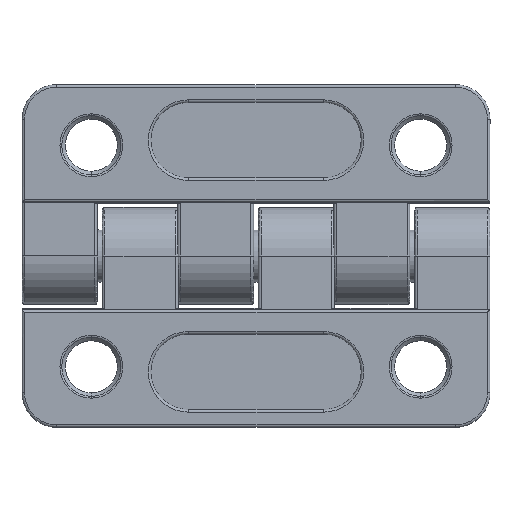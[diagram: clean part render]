
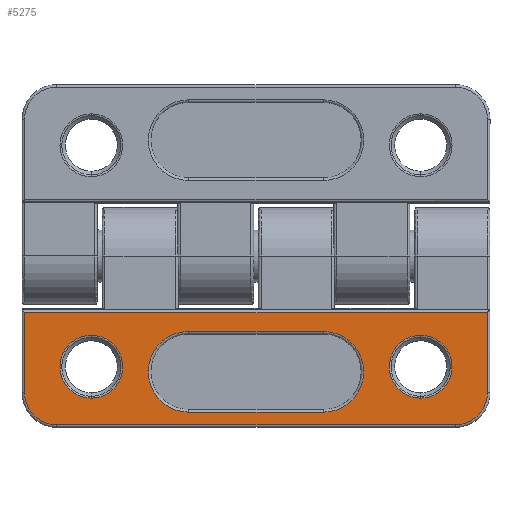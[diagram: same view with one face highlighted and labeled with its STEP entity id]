
A CAD part, front view. The second image highlights one B-rep face of the part: STEP entity #5275.
In plain terms, the highlighted planar face has unit normal (0, -1, 0).
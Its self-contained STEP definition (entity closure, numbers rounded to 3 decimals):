
#8 = CIRCLE ( 'NONE', #525, 3.624 ) ;
#62 = ORIENTED_EDGE ( 'NONE', *, *, #1343, .T. ) ;
#78 = ORIENTED_EDGE ( 'NONE', *, *, #3795, .T. ) ;
#79 = VERTEX_POINT ( 'NONE', #459 ) ;
#204 = AXIS2_PLACEMENT_3D ( 'NONE', #5255, #4309, #1883 ) ;
#276 = VERTEX_POINT ( 'NONE', #2229 ) ;
#288 = DIRECTION ( 'NONE',  ( 1., 0., 0. ) ) ;
#331 = VERTEX_POINT ( 'NONE', #6209 ) ;
#405 = ORIENTED_EDGE ( 'NONE', *, *, #2270, .T. ) ;
#459 = CARTESIAN_POINT ( 'NONE',  ( 7.783, -6.28, -18.016 ) ) ;
#525 = AXIS2_PLACEMENT_3D ( 'NONE', #3834, #1791, #5789 ) ;
#539 = VERTEX_POINT ( 'NONE', #4807 ) ;
#562 = EDGE_CURVE ( 'NONE', #5104, #3894, #2514, .T. ) ;
#806 = DIRECTION ( 'NONE',  ( 0., 0., 1. ) ) ;
#813 = FACE_BOUND ( 'NONE', #5240, .T. ) ;
#838 = DIRECTION ( 'NONE',  ( 0., -1., 0. ) ) ;
#842 = CARTESIAN_POINT ( 'NONE',  ( -7.783, -6.28, -18.016 ) ) ;
#907 = CARTESIAN_POINT ( 'NONE',  ( 26.7, -6.28, -6.524 ) ) ;
#930 = VERTEX_POINT ( 'NONE', #1737 ) ;
#948 = DIRECTION ( 'NONE',  ( 0., 1., 0. ) ) ;
#951 = EDGE_CURVE ( 'NONE', #930, #539, #2737, .T. ) ;
#975 = DIRECTION ( 'NONE',  ( 0., 0., -1. ) ) ;
#1120 = CARTESIAN_POINT ( 'NONE',  ( 26.7, -6.28, -15.78 ) ) ;
#1170 = CARTESIAN_POINT ( 'NONE',  ( -26.7, -6.28, -15.78 ) ) ;
#1281 = ORIENTED_EDGE ( 'NONE', *, *, #4371, .T. ) ;
#1304 = EDGE_CURVE ( 'NONE', #331, #5312, #5695, .T. ) ;
#1325 = CARTESIAN_POINT ( 'NONE',  ( -23., -6.28, -15.78 ) ) ;
#1343 = EDGE_CURVE ( 'NONE', #3398, #331, #4156, .T. ) ;
#1421 = CARTESIAN_POINT ( 'NONE',  ( 27., -6.28, -19.48 ) ) ;
#1492 = ORIENTED_EDGE ( 'NONE', *, *, #2599, .T. ) ;
#1508 = EDGE_CURVE ( 'NONE', #539, #79, #5318, .T. ) ;
#1523 = AXIS2_PLACEMENT_3D ( 'NONE', #6171, #1763, #4503 ) ;
#1526 = ORIENTED_EDGE ( 'NONE', *, *, #6117, .T. ) ;
#1632 = CIRCLE ( 'NONE', #204, 3.624 ) ;
#1684 = VERTEX_POINT ( 'NONE', #3757 ) ;
#1710 = ORIENTED_EDGE ( 'NONE', *, *, #951, .T. ) ;
#1737 = CARTESIAN_POINT ( 'NONE',  ( -7.783, -6.28, -8.716 ) ) ;
#1763 = DIRECTION ( 'NONE',  ( 0., 1., 0. ) ) ;
#1791 = DIRECTION ( 'NONE',  ( 0., 1., 0. ) ) ;
#1883 = DIRECTION ( 'NONE',  ( 0., 0., -1. ) ) ;
#1971 = CARTESIAN_POINT ( 'NONE',  ( 19., -6.28, -16.404 ) ) ;
#2041 = CIRCLE ( 'NONE', #5859, 4.65 ) ;
#2127 = VECTOR ( 'NONE', #2973, 1000. ) ;
#2139 = VERTEX_POINT ( 'NONE', #5865 ) ;
#2216 = VECTOR ( 'NONE', #288, 1000. ) ;
#2229 = CARTESIAN_POINT ( 'NONE',  ( -19., -6.28, -9.156 ) ) ;
#2270 = EDGE_CURVE ( 'NONE', #79, #5281, #2481, .T. ) ;
#2300 = CARTESIAN_POINT ( 'NONE',  ( 27., -6.28, -19.78 ) ) ;
#2321 = LINE ( 'NONE', #4236, #5549 ) ;
#2430 = EDGE_LOOP ( 'NONE', ( #3941, #405, #4979, #1710 ) ) ;
#2481 = LINE ( 'NONE', #5416, #2127 ) ;
#2499 = ORIENTED_EDGE ( 'NONE', *, *, #4756, .T. ) ;
#2514 = CIRCLE ( 'NONE', #5811, 3.7 ) ;
#2555 = CARTESIAN_POINT ( 'NONE',  ( -26.7, -6.28, -15.78 ) ) ;
#2599 = EDGE_CURVE ( 'NONE', #4373, #1684, #8, .T. ) ;
#2602 = DIRECTION ( 'NONE',  ( 0., -1., 0. ) ) ;
#2682 = CARTESIAN_POINT ( 'NONE',  ( -23., -6.28, -19.48 ) ) ;
#2737 = LINE ( 'NONE', #4704, #2216 ) ;
#2846 = DIRECTION ( 'NONE',  ( 0., 0., -1. ) ) ;
#2851 = AXIS2_PLACEMENT_3D ( 'NONE', #2300, #5812, #3797 ) ;
#2881 = DIRECTION ( 'NONE',  ( 0., 1., 0. ) ) ;
#2944 = EDGE_CURVE ( 'NONE', #1684, #4373, #4306, .T. ) ;
#2973 = DIRECTION ( 'NONE',  ( -1., 0., 0. ) ) ;
#3079 = DIRECTION ( 'NONE',  ( 0., 1., 0. ) ) ;
#3121 = EDGE_CURVE ( 'NONE', #5281, #930, #2041, .T. ) ;
#3398 = VERTEX_POINT ( 'NONE', #907 ) ;
#3410 = CARTESIAN_POINT ( 'NONE',  ( -19., -6.28, -12.78 ) ) ;
#3471 = VECTOR ( 'NONE', #6136, 1000. ) ;
#3588 = CARTESIAN_POINT ( 'NONE',  ( 23., -6.28, -15.78 ) ) ;
#3709 = DIRECTION ( 'NONE',  ( 0., 0., -1. ) ) ;
#3757 = CARTESIAN_POINT ( 'NONE',  ( 19., -6.28, -9.156 ) ) ;
#3795 = EDGE_CURVE ( 'NONE', #5312, #3953, #4639, .T. ) ;
#3797 = DIRECTION ( 'NONE',  ( 0., 0., -1. ) ) ;
#3834 = CARTESIAN_POINT ( 'NONE',  ( 19., -6.28, -12.78 ) ) ;
#3856 = FACE_BOUND ( 'NONE', #2430, .T. ) ;
#3894 = VERTEX_POINT ( 'NONE', #1120 ) ;
#3941 = ORIENTED_EDGE ( 'NONE', *, *, #1508, .T. ) ;
#3953 = VERTEX_POINT ( 'NONE', #2682 ) ;
#4156 = LINE ( 'NONE', #5636, #3471 ) ;
#4236 = CARTESIAN_POINT ( 'NONE',  ( 26.7, -6.28, -19.78 ) ) ;
#4306 = CIRCLE ( 'NONE', #1523, 3.624 ) ;
#4309 = DIRECTION ( 'NONE',  ( 0., 1., 0. ) ) ;
#4371 = EDGE_CURVE ( 'NONE', #3953, #5104, #6170, .T. ) ;
#4373 = VERTEX_POINT ( 'NONE', #1971 ) ;
#4381 = ORIENTED_EDGE ( 'NONE', *, *, #2944, .T. ) ;
#4478 = EDGE_CURVE ( 'NONE', #3894, #3398, #2321, .T. ) ;
#4503 = DIRECTION ( 'NONE',  ( 0., 0., -1. ) ) ;
#4513 = CIRCLE ( 'NONE', #5950, 3.624 ) ;
#4564 = CARTESIAN_POINT ( 'NONE',  ( 23., -6.28, -19.48 ) ) ;
#4638 = DIRECTION ( 'NONE',  ( 0., 0., -1. ) ) ;
#4639 = CIRCLE ( 'NONE', #5260, 3.7 ) ;
#4704 = CARTESIAN_POINT ( 'NONE',  ( 7.783, -6.28, -8.716 ) ) ;
#4756 = EDGE_CURVE ( 'NONE', #276, #2139, #1632, .T. ) ;
#4766 = ORIENTED_EDGE ( 'NONE', *, *, #562, .T. ) ;
#4807 = CARTESIAN_POINT ( 'NONE',  ( 7.783, -6.28, -8.716 ) ) ;
#4950 = ORIENTED_EDGE ( 'NONE', *, *, #4478, .T. ) ;
#4957 = DIRECTION ( 'NONE',  ( 0., 0., -1. ) ) ;
#4979 = ORIENTED_EDGE ( 'NONE', *, *, #3121, .T. ) ;
#4998 = VECTOR ( 'NONE', #4638, 1000. ) ;
#5104 = VERTEX_POINT ( 'NONE', #4564 ) ;
#5240 = EDGE_LOOP ( 'NONE', ( #1526, #2499 ) ) ;
#5244 = FACE_OUTER_BOUND ( 'NONE', #6011, .T. ) ;
#5255 = CARTESIAN_POINT ( 'NONE',  ( -19., -6.28, -12.78 ) ) ;
#5260 = AXIS2_PLACEMENT_3D ( 'NONE', #1325, #838, #2846 ) ;
#5275 = ADVANCED_FACE ( 'NONE', ( #5244, #6289, #813, #3856 ), #6256, .T. ) ;
#5281 = VERTEX_POINT ( 'NONE', #842 ) ;
#5312 = VERTEX_POINT ( 'NONE', #2555 ) ;
#5318 = CIRCLE ( 'NONE', #6127, 4.65 ) ;
#5399 = DIRECTION ( 'NONE',  ( 1., 0., 0. ) ) ;
#5407 = CARTESIAN_POINT ( 'NONE',  ( 7.783, -6.28, -13.366 ) ) ;
#5416 = CARTESIAN_POINT ( 'NONE',  ( -7.783, -6.28, -18.016 ) ) ;
#5549 = VECTOR ( 'NONE', #806, 1000. ) ;
#5636 = CARTESIAN_POINT ( 'NONE',  ( 27., -6.28, -6.524 ) ) ;
#5695 = LINE ( 'NONE', #1170, #4998 ) ;
#5789 = DIRECTION ( 'NONE',  ( 0., 0., -1. ) ) ;
#5811 = AXIS2_PLACEMENT_3D ( 'NONE', #3588, #2602, #3709 ) ;
#5812 = DIRECTION ( 'NONE',  ( 0., -1., 0. ) ) ;
#5859 = AXIS2_PLACEMENT_3D ( 'NONE', #6000, #948, #4957 ) ;
#5865 = CARTESIAN_POINT ( 'NONE',  ( -19., -6.28, -16.404 ) ) ;
#5873 = VECTOR ( 'NONE', #5399, 1000. ) ;
#5950 = AXIS2_PLACEMENT_3D ( 'NONE', #3410, #2881, #6348 ) ;
#5973 = ORIENTED_EDGE ( 'NONE', *, *, #1304, .T. ) ;
#6000 = CARTESIAN_POINT ( 'NONE',  ( -7.783, -6.28, -13.366 ) ) ;
#6011 = EDGE_LOOP ( 'NONE', ( #4950, #62, #5973, #78, #1281, #4766 ) ) ;
#6117 = EDGE_CURVE ( 'NONE', #2139, #276, #4513, .T. ) ;
#6127 = AXIS2_PLACEMENT_3D ( 'NONE', #5407, #3079, #975 ) ;
#6136 = DIRECTION ( 'NONE',  ( -1., 0., 0. ) ) ;
#6170 = LINE ( 'NONE', #1421, #5873 ) ;
#6171 = CARTESIAN_POINT ( 'NONE',  ( 19., -6.28, -12.78 ) ) ;
#6181 = EDGE_LOOP ( 'NONE', ( #1492, #4381 ) ) ;
#6209 = CARTESIAN_POINT ( 'NONE',  ( -26.7, -6.28, -6.524 ) ) ;
#6256 = PLANE ( 'NONE',  #2851 ) ;
#6289 = FACE_BOUND ( 'NONE', #6181, .T. ) ;
#6348 = DIRECTION ( 'NONE',  ( 0., 0., -1. ) ) ;
